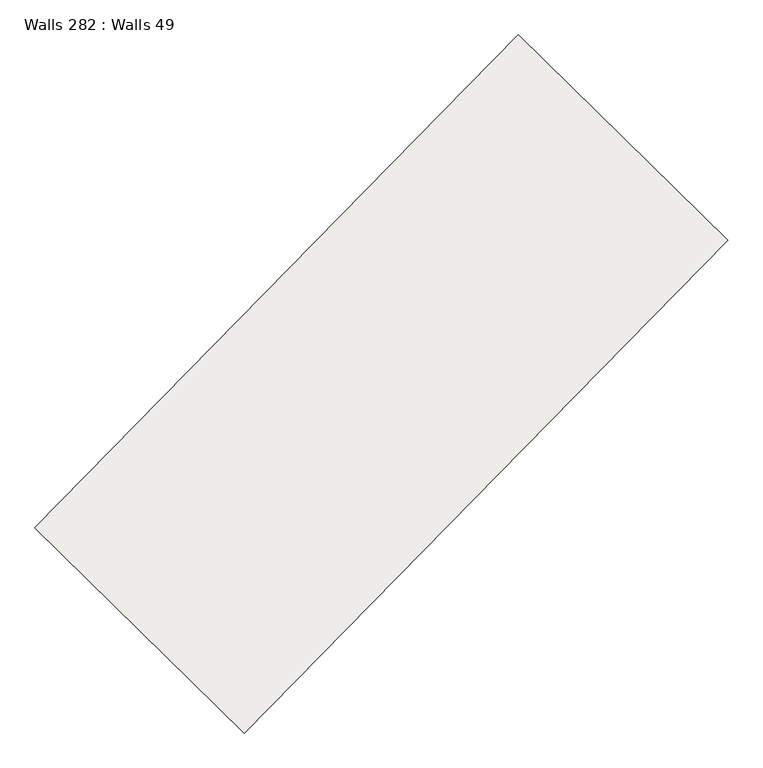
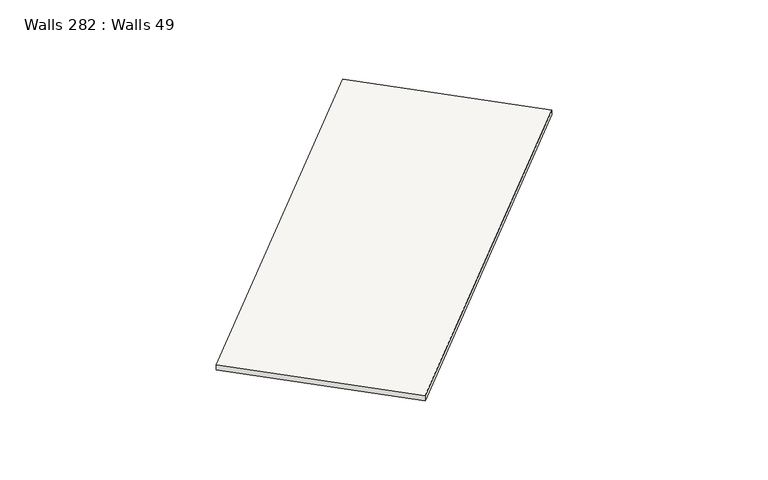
"""IFC4 building model written with IfcOpenShell, lengths in millimetres: slab geometry, Walls 282 : Walls 49."""

import ifcopenshell
import ifcopenshell.guid

model = None  # the IFC model being written
_history = None  # IfcOwnerHistory: only IFC2X3 demands one
_inside = {}  # id of a spatial element -> (the spatial element, [elements in it])
_under = {}  # id of a project, library or spatial element -> (it, [spatial elements below it])
_declared = {}  # id of a project -> (the project, [libraries it declares])
_typed = {}  # id of a type object -> (the type object, [elements of that type])
_made_of = {}  # id of a material, layer set ... -> (it, [elements and type objects made of it])


def new_model(schema):
    """Start an empty IFC model of exactly this schema.

    Asked for "IFC4X3", IfcOpenShell would pick the latest addendum, in which some entities
    have other attributes; the version numbers below select the first issue.
    IFC2X3 requires an IfcOwnerHistory on every rooted entity: one is made here for all.
    """
    global model, _history
    if schema == "IFC4X3":
        model = ifcopenshell.file(schema_version=(4, 3, 0, 0))
    else:
        model = ifcopenshell.file(schema=schema)
    _inside.clear()
    _under.clear()
    _declared.clear()
    _typed.clear()
    _made_of.clear()
    _history = None
    if model.schema == "IFC2X3":
        org = make("IfcOrganization", Name="unknown")
        user = make(
            "IfcPersonAndOrganization",
            ThePerson=make("IfcPerson", FamilyName="unknown"),
            TheOrganization=org,
        )
        app = make(
            "IfcApplication",
            ApplicationDeveloper=org,
            Version="unknown",
            ApplicationFullName="unknown",
            ApplicationIdentifier="unknown",
        )
        _history = make(
            "IfcOwnerHistory",
            OwningUser=user,
            OwningApplication=app,
            ChangeAction="ADDED",
            CreationDate=0,
        )
    return model


def make(cls, **values):
    """One entity of the class cls with the attributes given. An attribute that is None is left unset."""
    return model.create_entity(
        cls, **{name: value for name, value in values.items() if value is not None}
    )


def rooted(cls, **values):
    """An entity with a GlobalId (a new one), such as an element, a storey or a relation."""
    return make(cls, GlobalId=ifcopenshell.guid.new(), OwnerHistory=_history, **values)


def si_unit(unit_type, name, prefix=None):
    """IfcSIUnit, for example si_unit("LENGTHUNIT", "METRE", prefix="MILLI")."""
    return make("IfcSIUnit", UnitType=unit_type, Prefix=prefix, Name=name)


def assignment(units):
    """IfcUnitAssignment: the units of a project."""
    return None if units is None else make("IfcUnitAssignment", Units=units)


def point(xyz):
    """IfcCartesianPoint."""
    return None if xyz is None else make("IfcCartesianPoint", Coordinates=xyz)


def direction(xyz):
    """IfcDirection."""
    return None if xyz is None else make("IfcDirection", DirectionRatios=xyz)


def frame(location, z_axis=None, x_axis=None):
    """IfcAxis2Placement3D, a coordinate frame: its origin and axes. An axis left out is left unset."""
    return make(
        "IfcAxis2Placement3D",
        Location=point(location),
        Axis=direction(z_axis),
        RefDirection=direction(x_axis),
    )


def origin():
    """The frame at (0, 0, 0) with its axes left unset."""
    return frame((0.0, 0.0, 0.0))


def place(relative_to, where):
    """IfcLocalPlacement: puts the frame where relative to a parent placement (None: the world)."""
    return make(
        "IfcLocalPlacement", PlacementRelTo=relative_to, RelativePlacement=where
    )


def context(
    kind, dimensions, precision=None, world=None, true_north=None, identifier=None
):
    """IfcGeometricRepresentationContext, for example the 3D "Model" context."""
    return make(
        "IfcGeometricRepresentationContext",
        ContextIdentifier=identifier,
        ContextType=kind,
        CoordinateSpaceDimension=dimensions,
        Precision=precision,
        WorldCoordinateSystem=world,
        TrueNorth=true_north,
    )


def project(units=None, contexts=None):
    """IfcProject with its units and contexts."""
    return rooted(
        "IfcProject",
        Name="project",
        RepresentationContexts=contexts,
        UnitsInContext=assignment(units),
    )


def spatial(cls, under=None, at=None, **own):
    """A site, building, storey or space (cls), placed at a placement, below another one or the project."""
    s = rooted(cls, ObjectPlacement=at, **own)
    if under is not None:
        _under.setdefault(under.id(), (under, []))[1].append(s)
    return s


def polyline(points):
    """IfcPolyline through the points."""
    return make("IfcPolyline", Points=[point(p) for p in points])


def outline(outer, holes=None, kind="AREA"):
    """IfcArbitraryClosedProfileDef: a profile drawn as a closed curve; with holes, ...WithVoids."""
    if holes is None:
        return make("IfcArbitraryClosedProfileDef", ProfileType=kind, OuterCurve=outer)
    return make(
        "IfcArbitraryProfileDefWithVoids",
        ProfileType=kind,
        OuterCurve=outer,
        InnerCurves=holes,
    )


def extrude(swept, where, along, depth):
    """IfcExtrudedAreaSolid: the profile swept, set in the frame where, extruded along a direction by depth."""
    return make(
        "IfcExtrudedAreaSolid",
        SweptArea=swept,
        Position=where,
        ExtrudedDirection=direction(along),
        Depth=depth,
    )


def shape(context_of_items, identifier, shape_type, items):
    """IfcShapeRepresentation: the items that make up one representation, for example the "Body"."""
    return make(
        "IfcShapeRepresentation",
        ContextOfItems=context_of_items,
        RepresentationIdentifier=identifier,
        RepresentationType=shape_type,
        Items=items,
    )


def source(mapping_origin, context_of_items, identifier, shape_type, items):
    """IfcRepresentationMap: a shape defined once, which mapped items show again and again."""
    return make(
        "IfcRepresentationMap",
        MappingOrigin=mapping_origin,
        MappedRepresentation=shape(context_of_items, identifier, shape_type, items),
    )


def transform(
    local_origin,
    x_axis=None,
    y_axis=None,
    z_axis=None,
    scale=None,
    scale2=None,
    scale3=None,
    uniform=True,
):
    """IfcCartesianTransformationOperator3D, or its non-uniform kind. x_axis, y_axis, z_axis: its Axis1, 2, 3."""
    if uniform:
        return make(
            "IfcCartesianTransformationOperator3D",
            Axis1=direction(x_axis),
            Axis2=direction(y_axis),
            LocalOrigin=point(local_origin),
            Scale=scale,
            Axis3=direction(z_axis),
        )
    return make(
        "IfcCartesianTransformationOperator3DnonUniform",
        Axis1=direction(x_axis),
        Axis2=direction(y_axis),
        LocalOrigin=point(local_origin),
        Scale=scale,
        Axis3=direction(z_axis),
        Scale2=scale2,
        Scale3=scale3,
    )


def mapped(mapping_source, mapping_target):
    """IfcMappedItem: shows the shape of a source again, moved by a transform."""
    return make(
        "IfcMappedItem", MappingSource=mapping_source, MappingTarget=mapping_target
    )


def made_of(thing, what):
    """Note that an element or type object is made of a material, layer set ...; save() writes the relation."""
    if what is not None:
        _made_of.setdefault(what.id(), (what, []))[1].append(thing)
    return thing


def element(
    cls,
    number,
    at=None,
    inside=None,
    cuts=None,
    type_object=None,
    material=None,
    context=None,
    identifier="Body",
    shape_type=None,
    held_by="IfcProductDefinitionShape",
    body=None,
    shapes=None,
    **own,
):
    """One element of the class cls, such as IfcWall. Its Tag is "e" and its number.

    at: its placement. inside: the storey or other place that contains it. cuts: it is an
    opening in that element (IfcRelVoidsElement). A single representation is given by context,
    identifier, shape_type and body (its items); several are given by shapes. held_by: the class
    of the entity that holds the representations. save() writes the other relations.
    """
    e = rooted(cls, Tag="e%d" % number, ObjectPlacement=at, **own)
    if body is not None:
        shapes = [shape(context, identifier, shape_type, body)]
    if shapes is not None:
        e.Representation = make(held_by, Representations=shapes)
    if inside is not None:
        _inside.setdefault(inside.id(), (inside, []))[1].append(e)
    if cuts is not None:
        rooted(
            "IfcRelVoidsElement", RelatingBuildingElement=cuts, RelatedOpeningElement=e
        )
    if type_object is not None:
        _typed.setdefault(type_object.id(), (type_object, []))[1].append(e)
    return made_of(e, material)


def aggregate(whole, parts):
    """IfcRelAggregates: a whole, such as a stair, and the parts it consists of."""
    return rooted("IfcRelAggregates", RelatingObject=whole, RelatedObjects=parts)


def save(model, path):
    """Write the relations noted so far, then the file.

    IfcRelAggregates (storeys below a building ...), IfcRelContainedInSpatialStructure (elements
    in a storey), IfcRelDefinesByType, IfcRelAssociatesMaterial and IfcRelDeclares: one each for
    every whole, place, type object, material and project.
    """
    for whole, parts in _under.values():
        aggregate(whole, parts)
    for where, things in _inside.values():
        rooted(
            "IfcRelContainedInSpatialStructure",
            RelatedElements=things,
            RelatingStructure=where,
        )
    for kind, things in _typed.values():
        rooted("IfcRelDefinesByType", RelatedObjects=things, RelatingType=kind)
    for what, things in _made_of.values():
        rooted("IfcRelAssociatesMaterial", RelatedObjects=things, RelatingMaterial=what)
    for by, libraries in _declared.values():
        rooted("IfcRelDeclares", RelatingContext=by, RelatedDefinitions=libraries)
    model.write(path)


def walls_282_walls_49_45e2baa1(model_context):
    return source(origin(), model_context, "Body", "SweptSolid", [
        extrude(outline(polyline([(-50.0, 0.0), (50.0, 0.0), (-40.0, -8699.9999995), (-140.0, -8699.9999995), (-50.0, 0.0)])), frame((-85260.6978338, -246227.2141783, 636810.0), z_axis=(-0.7137361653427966, 0.70041465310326, 0.0), x_axis=(0.0, 0.0, 1.0)), (0.0, 0.0, 1.0), 3699.999995),
    ])


if __name__ == "__main__":
    model = new_model("IFC4")
    model_context = context("Model", 3, world=origin())
    ifc_project = project(units=[si_unit("LENGTHUNIT", "METRE", prefix="MILLI")], contexts=[model_context])
    site = spatial("IfcSite", under=ifc_project)
    building = spatial("IfcBuilding", under=site)
    placement = place(None, origin())
    walls_282_walls_49_shape = walls_282_walls_49_45e2baa1(model_context)
    element("IfcSlab", 1, ObjectType="Walls 282 : Walls 49", at=placement, inside=building, context=model_context, shape_type="MappedRepresentation", body=[
        mapped(walls_282_walls_49_shape, transform((0.0, 0.0, 0.0), x_axis=(1.0, 0.0, 0.0), y_axis=(0.0, 1.0, 0.0), z_axis=(0.0, 0.0, 1.0))),
    ])
    save(model, "model.ifc")
